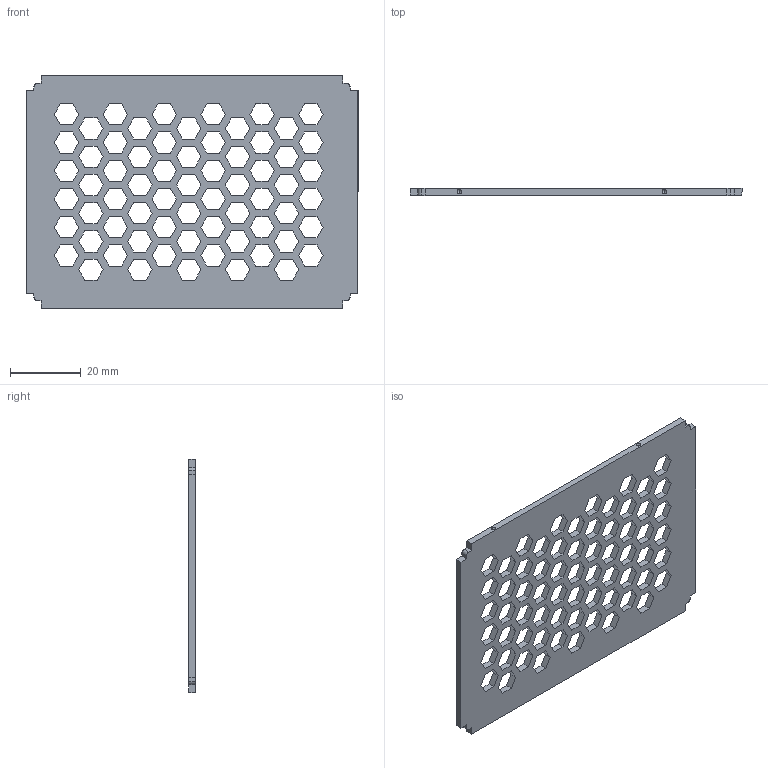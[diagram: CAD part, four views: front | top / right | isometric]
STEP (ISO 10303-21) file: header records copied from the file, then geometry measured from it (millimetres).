
FILE_DESCRIPTION (( 'STEP AP214' ), '1' );
FILE_NAME ('coverplate-universal.STEP', '2019-09-17T19:17:27', ( '' ), ( '' ), 'SwSTEP 2.0', 'SolidWorks 2016', '' );
FILE_SCHEMA (( 'AUTOMOTIVE_DESIGN' ));
Length unit declared in the file: millimetre
Products named in the file (1): coverplate-universal
Bounding box: 94 x 1.9 x 66 mm (x, y, z)
Volume: 7767.2 mm3; surface area: 11394.9 mm2
Topology: 1 solids, 1 shells, 430 faces, 1292 edges, 860 vertices
Faces by surface type: plane 418, sphere 8, cylinder 4
Entity records: 14414 total; most frequent: CARTESIAN_POINT 2559, ORIENTED_EDGE 2552, DIRECTION 2162, EDGE_CURVE 1276, LINE 1252, VECTOR 1252, VERTEX_POINT 852, EDGE_LOOP 566
